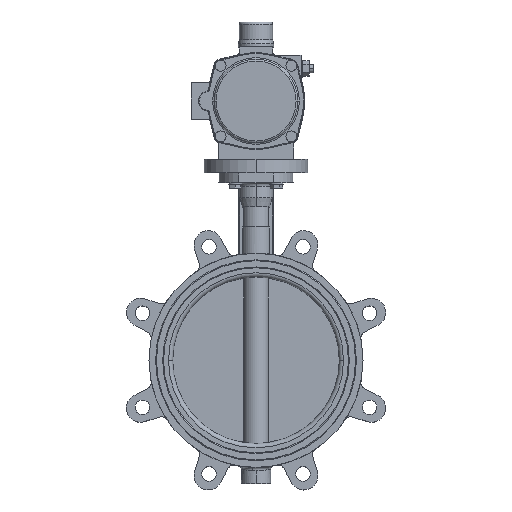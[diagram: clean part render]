
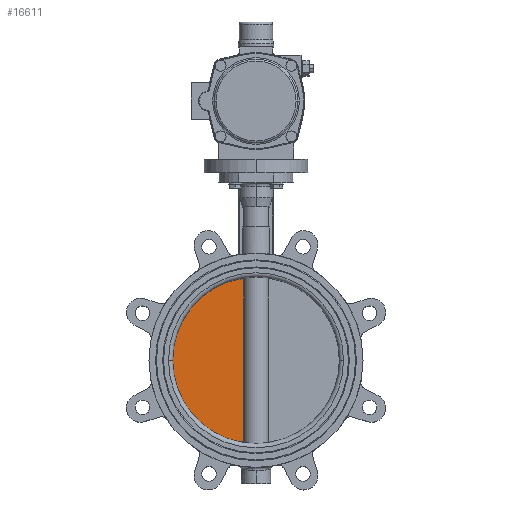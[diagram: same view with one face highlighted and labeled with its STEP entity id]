
A CAD part, top view. The second image highlights one B-rep face of the part: STEP entity #16611.
In plain terms, the highlighted planar face has unit normal (0, 0, 1).
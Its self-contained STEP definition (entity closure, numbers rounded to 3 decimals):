
#313 = PLANE ( 'NONE',  #19434 ) ;
#555 = EDGE_CURVE ( 'NONE', #653, #9979, #3329, .T. ) ;
#577 = AXIS2_PLACEMENT_3D ( 'NONE', #1825, #11114, #9372 ) ;
#653 = VERTEX_POINT ( 'NONE', #5898 ) ;
#1025 = VERTEX_POINT ( 'NONE', #10473 ) ;
#1690 = LINE ( 'NONE', #5163, #11367 ) ;
#1825 = CARTESIAN_POINT ( 'NONE',  ( 0., 0., 5. ) ) ;
#2640 = CARTESIAN_POINT ( 'NONE',  ( -100., 0., 5. ) ) ;
#3329 = CIRCLE ( 'NONE', #577, 100. ) ;
#5163 = CARTESIAN_POINT ( 'NONE',  ( -14.671, 258.001, 5. ) ) ;
#5868 = FACE_OUTER_BOUND ( 'NONE', #8043, .T. ) ;
#5898 = CARTESIAN_POINT ( 'NONE',  ( -14.671, -98.918, 5. ) ) ;
#7695 = ORIENTED_EDGE ( 'NONE', *, *, #13416, .F. ) ;
#7723 = DIRECTION ( 'NONE',  ( 0., 0., -1. ) ) ;
#7775 = EDGE_CURVE ( 'NONE', #9979, #1025, #15644, .T. ) ;
#8043 = EDGE_LOOP ( 'NONE', ( #19623, #7695, #21868 ) ) ;
#9348 = DIRECTION ( 'NONE',  ( -1., 0., 0. ) ) ;
#9372 = DIRECTION ( 'NONE',  ( -1., 0., 0. ) ) ;
#9979 = VERTEX_POINT ( 'NONE', #2640 ) ;
#10473 = CARTESIAN_POINT ( 'NONE',  ( -14.671, 98.918, 5. ) ) ;
#10861 = DIRECTION ( 'NONE',  ( 0., -1., 0. ) ) ;
#11114 = DIRECTION ( 'NONE',  ( 0., 0., -1. ) ) ;
#11367 = VECTOR ( 'NONE', #10861, 1000. ) ;
#11442 = CARTESIAN_POINT ( 'NONE',  ( 0., 0., 5. ) ) ;
#13080 = CARTESIAN_POINT ( 'NONE',  ( -102., 258.001, 5. ) ) ;
#13299 = DIRECTION ( 'NONE',  ( 0., 0., -1. ) ) ;
#13416 = EDGE_CURVE ( 'NONE', #1025, #653, #1690, .T. ) ;
#14048 = AXIS2_PLACEMENT_3D ( 'NONE', #11442, #13299, #19002 ) ;
#15644 = CIRCLE ( 'NONE', #14048, 100. ) ;
#16611 = ADVANCED_FACE ( 'NONE', ( #5868 ), #313, .F. ) ;
#19002 = DIRECTION ( 'NONE',  ( -1., 0., 0. ) ) ;
#19434 = AXIS2_PLACEMENT_3D ( 'NONE', #13080, #7723, #9348 ) ;
#19623 = ORIENTED_EDGE ( 'NONE', *, *, #555, .F. ) ;
#21868 = ORIENTED_EDGE ( 'NONE', *, *, #7775, .F. ) ;
